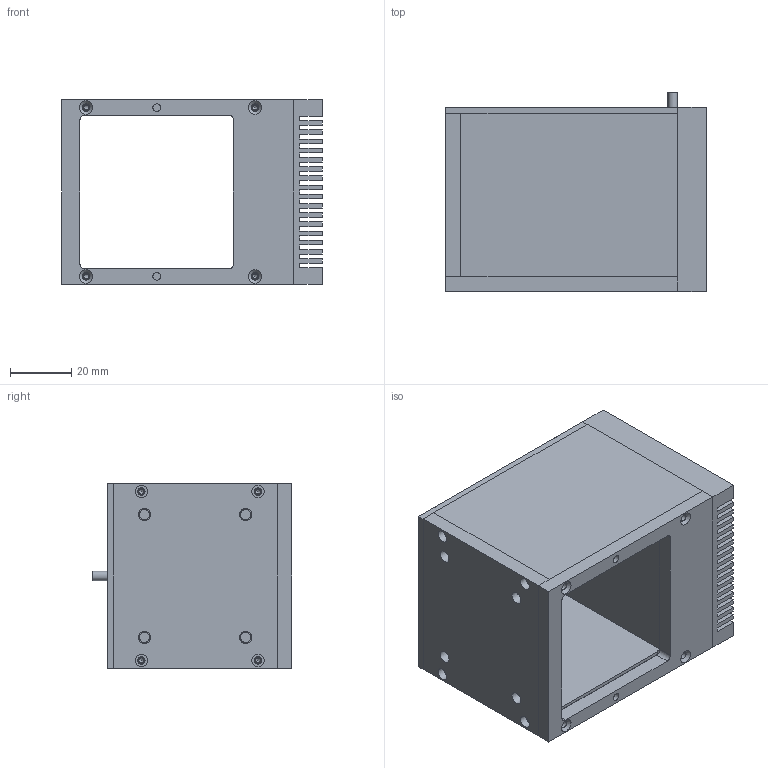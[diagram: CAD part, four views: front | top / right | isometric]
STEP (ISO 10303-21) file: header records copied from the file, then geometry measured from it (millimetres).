
FILE_DESCRIPTION(/* description */ (''),/* implementation_level */ '2;1');
FILE_NAME(/* name */ 'C:\#Vault-WorkDir\Konstruktions-Dokumente\Projekte\Zubehör allgemein\Falcon Beleuchtungen\153-00831_LK 46 R-24-KFL5-65.stp',/* time_stamp */ '2018-07-26T10:39:53+02:00',/* author */ ('SensoPart'),/* organization */ ('SensoPart'),/* preprocessor_version */ 'ST-DEVELOPER v17',/* originating_system */ 'Autodesk Inventor 2018',/* authorisation */ '');
FILE_SCHEMA (('AUTOMOTIVE_DESIGN { 1 0 10303 214 3 1 1 }'));
Length unit declared in the file: millimetre
Products named in the file (1): GH-ENG-0026256_Shrinkwrap_1
Bounding box: 85 x 65 x 60 mm (x, y, z)
Volume: 133510.9 mm3; surface area: 52508.1 mm2
Topology: 1 solids, 1 shells, 271 faces, 754 edges, 534 vertices
Faces by surface type: plane 170, cylinder 79, cone 22
Full cylindrical faces by diameter (mm): 1.6 x16, 2 x16, 2.4 x16, 2.5 x2, 3.1 x1, 3.3 x4, 4 x12
Entity records: 8997 total; most frequent: CARTESIAN_POINT 1634, DIRECTION 1568, ORIENTED_EDGE 1484, EDGE_CURVE 742, AXIS2_PLACEMENT_3D 558, VERTEX_POINT 536, LINE 452, VECTOR 452
